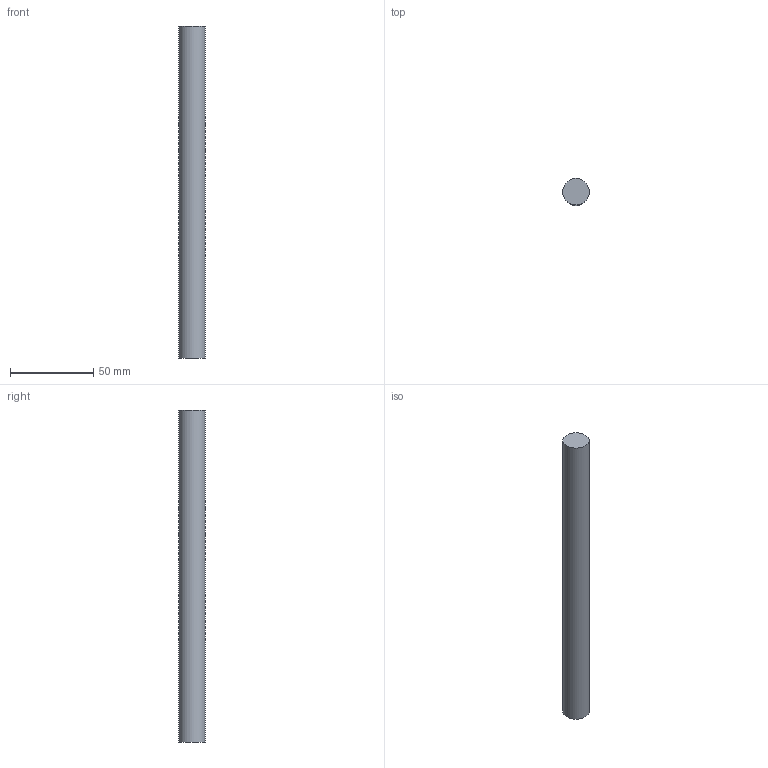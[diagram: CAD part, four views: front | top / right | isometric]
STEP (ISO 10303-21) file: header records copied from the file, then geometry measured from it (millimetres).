
FILE_DESCRIPTION(/* description */ (''),/* implementation_level */ '2;1');
FILE_NAME(/* name */ 'C:\Users\David\Desktop\stepFiles\Profilfuehrung\WF16x200.stp',/* time_stamp */ '2018-06-24T15:46:53+02:00',/* author */ ('David'),/* organization */ (''),/* preprocessor_version */ 'ST-DEVELOPER v17',/* originating_system */ 'Autodesk Inventor 2019',/* authorisation */ '');
FILE_SCHEMA (('AUTOMOTIVE_DESIGN { 1 0 10303 214 3 1 1 }'));
Length unit declared in the file: millimetre
Products named in the file (1): Wellenfuehrung
Bounding box: 16 x 16 x 200 mm (x, y, z)
Volume: 40212.4 mm3; surface area: 10455.2 mm2
Topology: 1 solids, 1 shells, 3 faces, 3 edges, 2 vertices
Faces by surface type: plane 2, cylinder 1
Full cylindrical faces by diameter (mm): 16 x1
Entity records: 98 total; most frequent: DIRECTION 13, CARTESIAN_POINT 9, ORIENTED_EDGE 6, AXIS2_PLACEMENT_3D 6, FACE_OUTER_BOUND 3, EDGE_LOOP 3, EDGE_CURVE 3, ADVANCED_FACE 3
